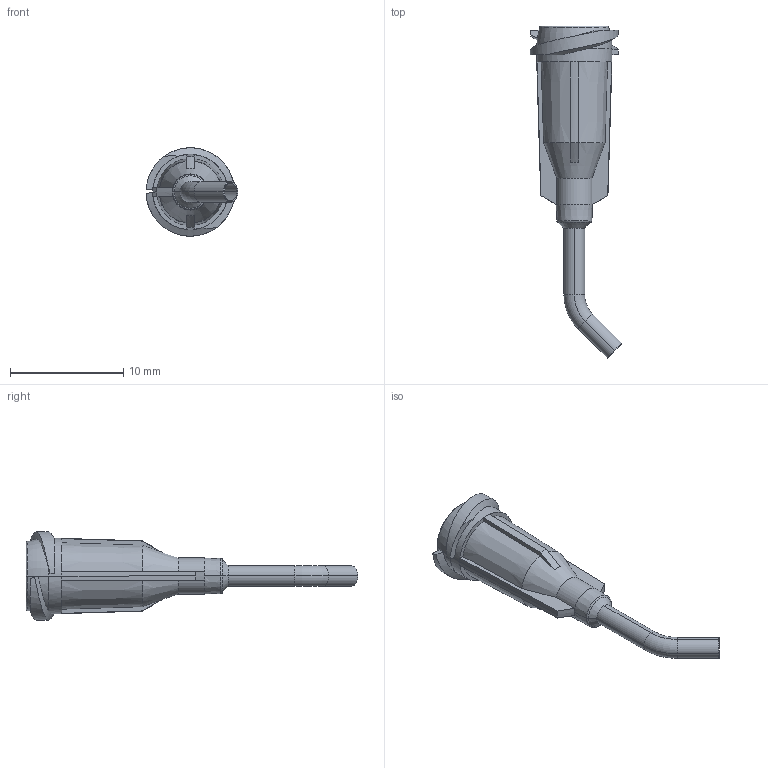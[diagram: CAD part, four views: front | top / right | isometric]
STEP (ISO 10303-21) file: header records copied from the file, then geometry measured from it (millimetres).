
FILE_DESCRIPTION (( 'STEP AP214' ), '1' );
FILE_NAME ('NORDSONEFD-7018039 TIP 14GA GP 060 45D OL.STEP', '2019-02-11T03:53:21', ( '' ), ( '' ), 'SwSTEP 2.0', 'SolidWorks 2019', '' );
FILE_SCHEMA (( 'AUTOMOTIVE_DESIGN' ));
Length unit declared in the file: inch
Products named in the file (1): NORDSONEFD-7018039 TIP 14GA GP 060 45D OL
Bounding box: 8.12 x 29.37 x 7.82 mm (x, y, z)
Volume: 260 mm3; surface area: 704.5 mm2
Topology: 1 solids, 1 shells, 128 faces, 294 edges, 172 vertices
Faces by surface type: torus 38, cylinder 30, plane 26, cone 22, bspline 12
Entity records: 4484 total; most frequent: CARTESIAN_POINT 1129, DIRECTION 638, ORIENTED_EDGE 588, EDGE_CURVE 294, AXIS2_PLACEMENT_3D 283, VERTEX_POINT 172, CIRCLE 166, EDGE_LOOP 134
